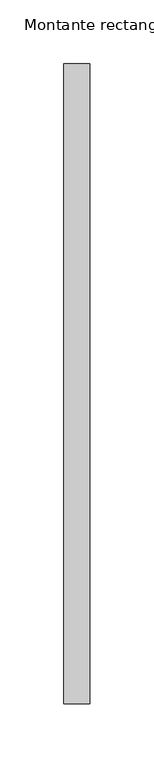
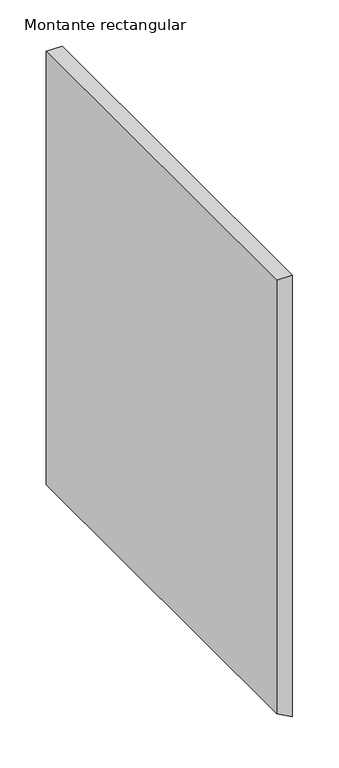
"""IFC4 building model written with IfcOpenShell, lengths in millimetres: member geometry, Montante rectangular : CIRCLES."""

from ifc_helpers import new_model, si_unit, frame, origin, place, context, project, spatial, polyline, outline, extrude, source, transform, mapped, element, save


def montante_rectangular_777e8895(model_context):
    return source(origin(), model_context, "Body", "SweptSolid", [
        extrude(outline(polyline([(0.0, 0.0), (0.0, -20.0), (-574.2256588, -20.0), (-584.902879, 0.0), (0.0, 0.0)])), frame((0.0, -250.0, 0.0), z_axis=(0.0, 1.0, 0.0), x_axis=(0.0, 0.0, 1.0)), (0.0, 0.0, 1.0), 500.0),
    ])


if __name__ == "__main__":
    model = new_model("IFC4")
    model_context = context("Model", 3, world=origin())
    ifc_project = project(units=[si_unit("LENGTHUNIT", "METRE", prefix="MILLI")], contexts=[model_context])
    site = spatial("IfcSite", under=ifc_project)
    building = spatial("IfcBuilding", under=site)
    placement = place(None, origin())
    montante_rectangular_shape = montante_rectangular_777e8895(model_context)
    element("IfcMember", 1, ObjectType="Montante rectangular : CIRCLES", at=placement, inside=building, context=model_context, shape_type="MappedRepresentation", body=[
        mapped(montante_rectangular_shape, transform((0.0, 0.0, 0.0), x_axis=(1.0, 0.0, 0.0), y_axis=(0.0, 1.0, 0.0), z_axis=(0.0, 0.0, 1.0))),
    ])
    save(model, "model.ifc")
